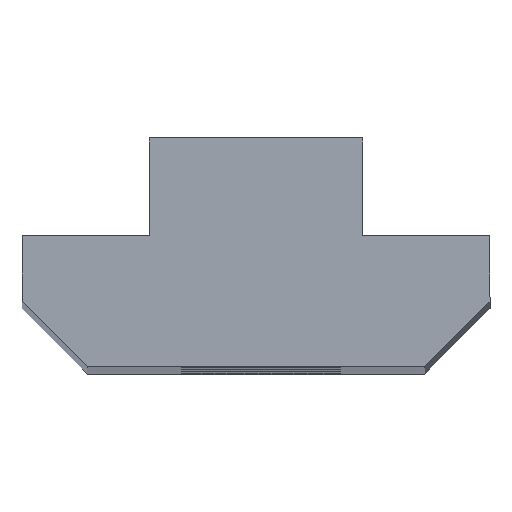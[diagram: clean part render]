
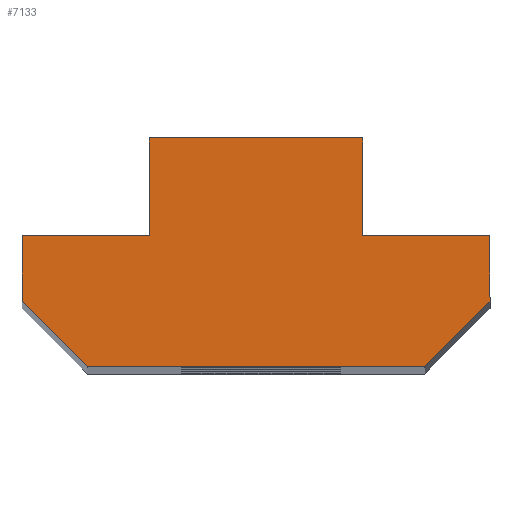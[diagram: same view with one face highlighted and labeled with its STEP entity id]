
A CAD part, top view. The second image highlights one B-rep face of the part: STEP entity #7133.
In plain terms, the highlighted planar face has unit normal (0, 0, 1).
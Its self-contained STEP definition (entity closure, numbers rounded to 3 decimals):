
#46 = CARTESIAN_POINT ( 'NONE',  ( -7.75, -6., 100. ) ) ;
#55 = CARTESIAN_POINT ( 'NONE',  ( -10.75, 0., 100. ) ) ;
#71 = CARTESIAN_POINT ( 'NONE',  ( 4.9, 4.495, 100. ) ) ;
#283 = CARTESIAN_POINT ( 'NONE',  ( 4.9, 4.495, 100. ) ) ;
#335 = EDGE_CURVE ( 'NONE', #6939, #6822, #7892, .T. ) ;
#589 = VERTEX_POINT ( 'NONE', #55 ) ;
#607 = CARTESIAN_POINT ( 'NONE',  ( -4.9, 4.495, 100. ) ) ;
#677 = VERTEX_POINT ( 'NONE', #4161 ) ;
#733 = VECTOR ( 'NONE', #2939, 1000. ) ;
#754 = CARTESIAN_POINT ( 'NONE',  ( 10.75, -3., 100. ) ) ;
#903 = ORIENTED_EDGE ( 'NONE', *, *, #3879, .T. ) ;
#1066 = VECTOR ( 'NONE', #1910, 1000. ) ;
#1240 = LINE ( 'NONE', #283, #6951 ) ;
#1620 = DIRECTION ( 'NONE',  ( 0.707, 0.707, 0. ) ) ;
#1659 = VECTOR ( 'NONE', #8358, 1000. ) ;
#1777 = ORIENTED_EDGE ( 'NONE', *, *, #5612, .T. ) ;
#1910 = DIRECTION ( 'NONE',  ( -1., 0., 0. ) ) ;
#1958 = LINE ( 'NONE', #46, #1659 ) ;
#2336 = VERTEX_POINT ( 'NONE', #2853 ) ;
#2350 = ORIENTED_EDGE ( 'NONE', *, *, #3719, .T. ) ;
#2377 = ORIENTED_EDGE ( 'NONE', *, *, #5103, .T. ) ;
#2589 = CARTESIAN_POINT ( 'NONE',  ( 7.75, -6., 100. ) ) ;
#2717 = DIRECTION ( 'NONE',  ( -1., 0., 0. ) ) ;
#2731 = DIRECTION ( 'NONE',  ( 0., 1., 0. ) ) ;
#2747 = DIRECTION ( 'NONE',  ( 1., 0., 0. ) ) ;
#2853 = CARTESIAN_POINT ( 'NONE',  ( -4.9, 0., 100. ) ) ;
#2864 = CARTESIAN_POINT ( 'NONE',  ( -4.9, 0., 100. ) ) ;
#2939 = DIRECTION ( 'NONE',  ( -1., 0., 0. ) ) ;
#3022 = DIRECTION ( 'NONE',  ( 0., -1., 0. ) ) ;
#3356 = ORIENTED_EDGE ( 'NONE', *, *, #3423, .T. ) ;
#3423 = EDGE_CURVE ( 'NONE', #8834, #6939, #1240, .T. ) ;
#3536 = LINE ( 'NONE', #2589, #6622 ) ;
#3584 = EDGE_CURVE ( 'NONE', #6822, #2336, #4434, .T. ) ;
#3666 = DIRECTION ( 'NONE',  ( 0., 0., -1. ) ) ;
#3681 = CARTESIAN_POINT ( 'NONE',  ( 10.75, 0., 100. ) ) ;
#3697 = CARTESIAN_POINT ( 'NONE',  ( 7.75, -6., 100. ) ) ;
#3719 = EDGE_CURVE ( 'NONE', #2336, #589, #3824, .T. ) ;
#3824 = LINE ( 'NONE', #2864, #1066 ) ;
#3830 = EDGE_CURVE ( 'NONE', #7526, #677, #4653, .T. ) ;
#3879 = EDGE_CURVE ( 'NONE', #589, #4917, #4915, .T. ) ;
#3900 = CARTESIAN_POINT ( 'NONE',  ( 4.9, 0., 100. ) ) ;
#3979 = VECTOR ( 'NONE', #2731, 1000. ) ;
#3985 = CARTESIAN_POINT ( 'NONE',  ( -10.75, 0., 100. ) ) ;
#4145 = FACE_OUTER_BOUND ( 'NONE', #5974, .T. ) ;
#4155 = EDGE_CURVE ( 'NONE', #677, #4965, #3536, .T. ) ;
#4161 = CARTESIAN_POINT ( 'NONE',  ( 7.75, -6., 100. ) ) ;
#4383 = EDGE_CURVE ( 'NONE', #4917, #7526, #1958, .T. ) ;
#4434 = LINE ( 'NONE', #607, #6983 ) ;
#4580 = ORIENTED_EDGE ( 'NONE', *, *, #3584, .T. ) ;
#4614 = VERTEX_POINT ( 'NONE', #5424 ) ;
#4620 = AXIS2_PLACEMENT_3D ( 'NONE', #4626, #3666, #2717 ) ;
#4626 = CARTESIAN_POINT ( 'NONE',  ( 0., 0., 100. ) ) ;
#4640 = LINE ( 'NONE', #3681, #3979 ) ;
#4653 = LINE ( 'NONE', #3697, #7329 ) ;
#4838 = LINE ( 'NONE', #3900, #733 ) ;
#4915 = LINE ( 'NONE', #3985, #8988 ) ;
#4917 = VERTEX_POINT ( 'NONE', #5757 ) ;
#4965 = VERTEX_POINT ( 'NONE', #754 ) ;
#5103 = EDGE_CURVE ( 'NONE', #4965, #4614, #4640, .T. ) ;
#5424 = CARTESIAN_POINT ( 'NONE',  ( 10.75, 0., 100. ) ) ;
#5565 = PLANE ( 'NONE',  #4620 ) ;
#5612 = EDGE_CURVE ( 'NONE', #4614, #8834, #4838, .T. ) ;
#5757 = CARTESIAN_POINT ( 'NONE',  ( -10.75, -3., 100. ) ) ;
#5791 = CARTESIAN_POINT ( 'NONE',  ( -7.75, -6., 100. ) ) ;
#5974 = EDGE_LOOP ( 'NONE', ( #4580, #2350, #903, #7371, #7031, #6794, #2377, #1777, #3356, #6588 ) ) ;
#6032 = DIRECTION ( 'NONE',  ( -1., 0., 0. ) ) ;
#6325 = VECTOR ( 'NONE', #6032, 1000. ) ;
#6588 = ORIENTED_EDGE ( 'NONE', *, *, #335, .T. ) ;
#6622 = VECTOR ( 'NONE', #1620, 1000. ) ;
#6794 = ORIENTED_EDGE ( 'NONE', *, *, #4155, .T. ) ;
#6822 = VERTEX_POINT ( 'NONE', #7658 ) ;
#6939 = VERTEX_POINT ( 'NONE', #71 ) ;
#6951 = VECTOR ( 'NONE', #8588, 1000. ) ;
#6953 = CARTESIAN_POINT ( 'NONE',  ( 4.9, 4.495, 100. ) ) ;
#6983 = VECTOR ( 'NONE', #8908, 1000. ) ;
#7031 = ORIENTED_EDGE ( 'NONE', *, *, #3830, .T. ) ;
#7133 = ADVANCED_FACE ( 'NONE', ( #4145 ), #5565, .F. ) ;
#7329 = VECTOR ( 'NONE', #2747, 1000. ) ;
#7371 = ORIENTED_EDGE ( 'NONE', *, *, #4383, .T. ) ;
#7526 = VERTEX_POINT ( 'NONE', #5791 ) ;
#7658 = CARTESIAN_POINT ( 'NONE',  ( -4.9, 4.495, 100. ) ) ;
#7724 = CARTESIAN_POINT ( 'NONE',  ( 4.9, 0., 100. ) ) ;
#7892 = LINE ( 'NONE', #6953, #6325 ) ;
#8358 = DIRECTION ( 'NONE',  ( 0.707, -0.707, 0. ) ) ;
#8588 = DIRECTION ( 'NONE',  ( 0., 1., 0. ) ) ;
#8834 = VERTEX_POINT ( 'NONE', #7724 ) ;
#8908 = DIRECTION ( 'NONE',  ( 0., -1., 0. ) ) ;
#8988 = VECTOR ( 'NONE', #3022, 1000. ) ;
